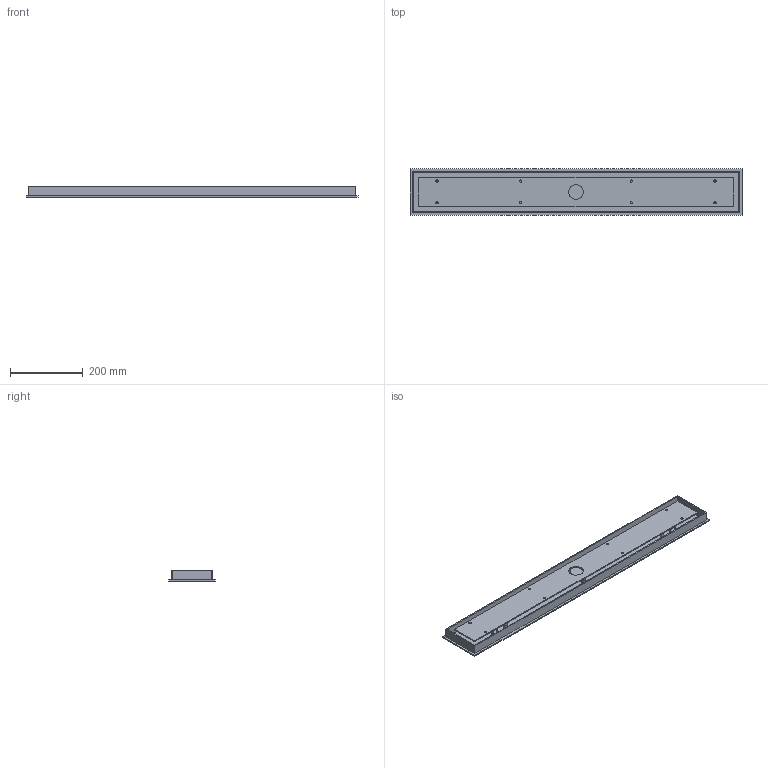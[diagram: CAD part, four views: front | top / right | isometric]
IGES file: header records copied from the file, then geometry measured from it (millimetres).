
Global section: file name: /Users/danielszollosi/Documents/SkLO/DEVELOPMENT/LIGHT 2024/MULTIPENDANT CANOPIES/Linear Multipendant Canopies/SkLO_Linear_Canopy_3'_MCL03/3D/SkLO_Linear_Canopy_3'_MCL03_3D.igs; native system: Rhinoceros ( Sep 24 2023 ); preprocessor: Trout Lake IGES 012 Sep 24 2023; date: 241018.142206; units: millimetre
Bounding box: 915 x 127 x 28.3 mm (x, y, z)
Surface area: 490671.8 mm2 (no closed solid volume)
Topology: 0 solids, 0 shells, 169 faces, 1049 edges, 974 vertices
Faces by surface type: bspline 169
